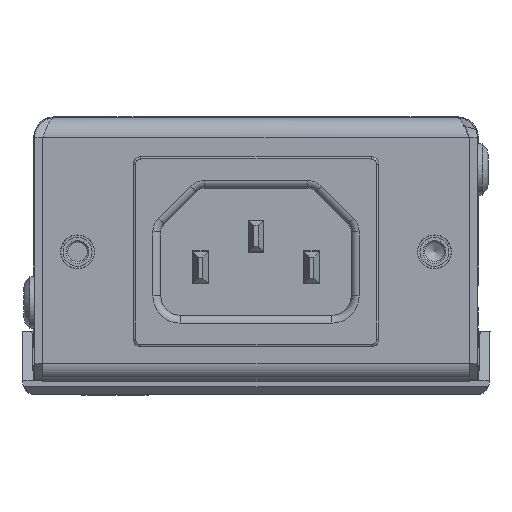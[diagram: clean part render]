
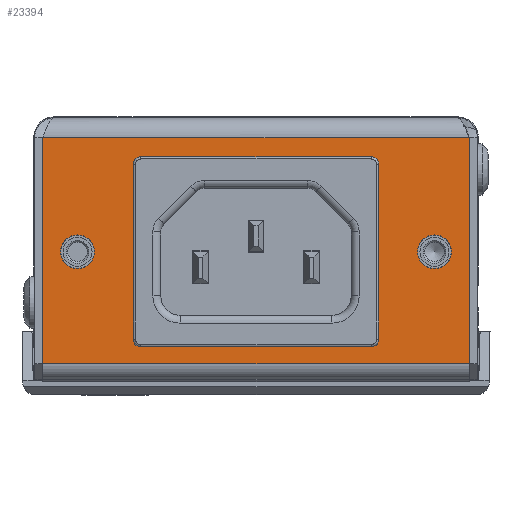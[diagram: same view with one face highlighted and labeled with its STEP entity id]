
A CAD part, left-side view. The second image highlights one B-rep face of the part: STEP entity #23394.
In plain terms, the highlighted planar face has unit normal (-1, 0, 0).
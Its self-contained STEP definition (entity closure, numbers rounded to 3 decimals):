
#375=B_SPLINE_CURVE_WITH_KNOTS('',3,(#41897,#41898,#41899,#41900),
 .UNSPECIFIED.,.F.,.F.,(4,4),(0.076,0.078),
 .UNSPECIFIED.);
#384=B_SPLINE_CURVE_WITH_KNOTS('',3,(#42049,#42050,#42051,#42052),
 .UNSPECIFIED.,.F.,.F.,(4,4),(-0.079,-0.076),
 .UNSPECIFIED.);
#476=FACE_BOUND('',#3398,.T.);
#477=FACE_BOUND('',#3399,.T.);
#478=FACE_BOUND('',#3400,.T.);
#901=PLANE('',#25470);
#2082=FACE_OUTER_BOUND('',#3397,.T.);
#3397=EDGE_LOOP('',(#18826,#18827,#18828,#18829,#18830,#18831));
#3398=EDGE_LOOP('',(#18832,#18833,#18834,#18835,#18836,#18837,#18838,#18839));
#3399=EDGE_LOOP('',(#18840,#18841));
#3400=EDGE_LOOP('',(#18842,#18843));
#4208=CIRCLE('',#23856,1.);
#4210=CIRCLE('',#23859,1.);
#4214=CIRCLE('',#23865,1.);
#4218=CIRCLE('',#23871,1.);
#4713=CIRCLE('',#25471,2.125);
#4714=CIRCLE('',#25472,2.125);
#4715=CIRCLE('',#25473,2.125);
#4716=CIRCLE('',#25474,2.125);
#4983=LINE('',#32799,#6977);
#4987=LINE('',#32808,#6981);
#4991=LINE('',#32817,#6985);
#4997=LINE('',#32830,#6991);
#6305=LINE('',#41955,#8299);
#6311=LINE('',#42044,#8305);
#6312=LINE('',#42046,#8306);
#6313=LINE('',#42048,#8307);
#6977=VECTOR('',#26292,10.);
#6981=VECTOR('',#26298,10.);
#6985=VECTOR('',#26304,10.);
#6991=VECTOR('',#26312,10.);
#8299=VECTOR('',#30840,10.);
#8305=VECTOR('',#30858,10.);
#8306=VECTOR('',#30859,10.);
#8307=VECTOR('',#30860,10.);
#8963=VERTEX_POINT('',#32797);
#8964=VERTEX_POINT('',#32798);
#8967=VERTEX_POINT('',#32806);
#8968=VERTEX_POINT('',#32807);
#8971=VERTEX_POINT('',#32815);
#8972=VERTEX_POINT('',#32816);
#8977=VERTEX_POINT('',#32827);
#8978=VERTEX_POINT('',#32829);
#10433=VERTEX_POINT('',#41889);
#10434=VERTEX_POINT('',#41896);
#10439=VERTEX_POINT('',#41954);
#10444=VERTEX_POINT('',#42043);
#10445=VERTEX_POINT('',#42045);
#10446=VERTEX_POINT('',#42047);
#10447=VERTEX_POINT('',#42053);
#10448=VERTEX_POINT('',#42054);
#10449=VERTEX_POINT('',#42057);
#10450=VERTEX_POINT('',#42058);
#11065=EDGE_CURVE('',#8963,#8964,#4983,.T.);
#11069=EDGE_CURVE('',#8967,#8968,#4987,.T.);
#11073=EDGE_CURVE('',#8971,#8972,#4991,.T.);
#11079=EDGE_CURVE('',#8978,#8977,#4997,.T.);
#11081=EDGE_CURVE('',#8964,#8967,#4208,.T.);
#11083=EDGE_CURVE('',#8977,#8963,#4210,.T.);
#11087=EDGE_CURVE('',#8968,#8971,#4214,.T.);
#11091=EDGE_CURVE('',#8972,#8978,#4218,.T.);
#13411=EDGE_CURVE('',#10434,#10433,#375,.T.);
#13418=EDGE_CURVE('',#10439,#10434,#6305,.T.);
#13429=EDGE_CURVE('',#10444,#10433,#6311,.T.);
#13430=EDGE_CURVE('',#10444,#10445,#6312,.T.);
#13431=EDGE_CURVE('',#10446,#10445,#6313,.T.);
#13432=EDGE_CURVE('',#10439,#10446,#384,.F.);
#13433=EDGE_CURVE('',#10447,#10448,#4713,.T.);
#13434=EDGE_CURVE('',#10448,#10447,#4714,.T.);
#13435=EDGE_CURVE('',#10449,#10450,#4715,.T.);
#13436=EDGE_CURVE('',#10450,#10449,#4716,.T.);
#18826=ORIENTED_EDGE('',*,*,#13418,.T.);
#18827=ORIENTED_EDGE('',*,*,#13411,.T.);
#18828=ORIENTED_EDGE('',*,*,#13429,.F.);
#18829=ORIENTED_EDGE('',*,*,#13430,.T.);
#18830=ORIENTED_EDGE('',*,*,#13431,.F.);
#18831=ORIENTED_EDGE('',*,*,#13432,.F.);
#18832=ORIENTED_EDGE('',*,*,#11079,.T.);
#18833=ORIENTED_EDGE('',*,*,#11083,.T.);
#18834=ORIENTED_EDGE('',*,*,#11065,.T.);
#18835=ORIENTED_EDGE('',*,*,#11081,.T.);
#18836=ORIENTED_EDGE('',*,*,#11069,.T.);
#18837=ORIENTED_EDGE('',*,*,#11087,.T.);
#18838=ORIENTED_EDGE('',*,*,#11073,.T.);
#18839=ORIENTED_EDGE('',*,*,#11091,.T.);
#18840=ORIENTED_EDGE('',*,*,#13433,.T.);
#18841=ORIENTED_EDGE('',*,*,#13434,.T.);
#18842=ORIENTED_EDGE('',*,*,#13435,.T.);
#18843=ORIENTED_EDGE('',*,*,#13436,.T.);
#23394=ADVANCED_FACE('',(#2082,#476,#477,#478),#901,.F.);
#23856=AXIS2_PLACEMENT_3D('',#32833,#26316,#26317);
#23859=AXIS2_PLACEMENT_3D('',#32836,#26322,#26323);
#23865=AXIS2_PLACEMENT_3D('',#32842,#26334,#26335);
#23871=AXIS2_PLACEMENT_3D('',#32848,#26346,#26347);
#25470=AXIS2_PLACEMENT_3D('',#42042,#30856,#30857);
#25471=AXIS2_PLACEMENT_3D('',#42055,#30861,#30862);
#25472=AXIS2_PLACEMENT_3D('',#42056,#30863,#30864);
#25473=AXIS2_PLACEMENT_3D('',#42059,#30865,#30866);
#25474=AXIS2_PLACEMENT_3D('',#42060,#30867,#30868);
#26292=DIRECTION('',(0.,1.,0.));
#26298=DIRECTION('',(0.,0.,1.));
#26304=DIRECTION('',(0.,-1.,0.));
#26312=DIRECTION('',(0.,0.,-1.));
#26316=DIRECTION('center_axis',(1.,0.,0.));
#26317=DIRECTION('ref_axis',(0.,0.,
1.));
#26322=DIRECTION('center_axis',(1.,0.,0.));
#26323=DIRECTION('ref_axis',(0.,0.,
1.));
#26334=DIRECTION('center_axis',(1.,0.,0.));
#26335=DIRECTION('ref_axis',(0.,0.,
1.));
#26346=DIRECTION('center_axis',(1.,0.,0.));
#26347=DIRECTION('ref_axis',(0.,0.,
1.));
#30840=DIRECTION('',(0.,1.,0.));
#30856=DIRECTION('center_axis',(1.,0.,0.));
#30857=DIRECTION('ref_axis',(0.,0.,
1.));
#30858=DIRECTION('',(0.,0.,1.));
#30859=DIRECTION('',(0.,-1.,0.));
#30860=DIRECTION('',(0.,0.,-1.));
#30861=DIRECTION('center_axis',(1.,0.,0.));
#30862=DIRECTION('ref_axis',(0.,-1.,0.));
#30863=DIRECTION('center_axis',(1.,0.,0.));
#30864=DIRECTION('ref_axis',(0.,-1.,0.));
#30865=DIRECTION('center_axis',(1.,0.,0.));
#30866=DIRECTION('ref_axis',(0.,-1.,0.));
#30867=DIRECTION('center_axis',(1.,0.,0.));
#30868=DIRECTION('ref_axis',(0.,-1.,0.));
#32797=CARTESIAN_POINT('',(-85.1,-14.5,6.));
#32798=CARTESIAN_POINT('',(-85.1,14.5,6.));
#32799=CARTESIAN_POINT('',(-85.1,15.722,6.));
#32806=CARTESIAN_POINT('',(-85.1,15.5,7.));
#32807=CARTESIAN_POINT('',(-85.1,15.5,29.));
#32808=CARTESIAN_POINT('',(-85.1,15.5,23.295));
#32815=CARTESIAN_POINT('',(-85.1,14.5,30.));
#32816=CARTESIAN_POINT('',(-85.1,-14.5,30.));
#32817=CARTESIAN_POINT('',(-85.1,0.642,30.));
#32827=CARTESIAN_POINT('',(-85.1,-15.5,7.));
#32829=CARTESIAN_POINT('',(-85.1,-15.5,29.));
#32830=CARTESIAN_POINT('',(-85.1,-15.5,11.855));
#32833=CARTESIAN_POINT('Origin',(-85.1,14.5,7.));
#32836=CARTESIAN_POINT('Origin',(-85.1,-14.5,7.));
#32842=CARTESIAN_POINT('Origin',(-85.1,14.5,29.));
#32848=CARTESIAN_POINT('Origin',(-85.1,-14.5,29.));
#41889=CARTESIAN_POINT('',(-85.1,26.9,32.381));
#41896=CARTESIAN_POINT('',(-85.1,26.893,32.4));
#41897=CARTESIAN_POINT('Ctrl Pts',(-85.1,26.893,32.4));
#41898=CARTESIAN_POINT('Ctrl Pts',(-85.1,26.895,32.394));
#41899=CARTESIAN_POINT('Ctrl Pts',(-85.1,26.898,32.388));
#41900=CARTESIAN_POINT('Ctrl Pts',(-85.1,26.9,32.381));
#41954=CARTESIAN_POINT('',(-85.1,-26.89,32.4));
#41955=CARTESIAN_POINT('',(-85.1,301.983,32.4));
#42042=CARTESIAN_POINT('Origin',(-85.1,16.364,17.15));
#42043=CARTESIAN_POINT('',(-85.1,26.9,3.9));
#42044=CARTESIAN_POINT('',(-85.1,26.9,32.4));
#42045=CARTESIAN_POINT('',(-85.1,-26.9,3.9));
#42046=CARTESIAN_POINT('',(-85.1,21.628,3.9));
#42047=CARTESIAN_POINT('',(-85.1,-26.9,32.374));
#42048=CARTESIAN_POINT('',(-85.1,-26.9,32.4));
#42049=CARTESIAN_POINT('Ctrl Pts',(-85.1,-26.9,
32.374));
#42050=CARTESIAN_POINT('Ctrl Pts',(-85.1,-26.897,
32.382));
#42051=CARTESIAN_POINT('Ctrl Pts',(-85.1,-26.893,
32.391));
#42052=CARTESIAN_POINT('Ctrl Pts',(-85.1,-26.89,32.4));
#42053=CARTESIAN_POINT('',(-85.1,20.375,18.));
#42054=CARTESIAN_POINT('',(-85.1,24.625,18.));
#42055=CARTESIAN_POINT('Origin',(-85.1,22.5,18.));
#42056=CARTESIAN_POINT('Origin',(-85.1,22.5,18.));
#42057=CARTESIAN_POINT('',(-85.1,-24.625,18.));
#42058=CARTESIAN_POINT('',(-85.1,-20.375,18.));
#42059=CARTESIAN_POINT('Origin',(-85.1,-22.5,18.));
#42060=CARTESIAN_POINT('Origin',(-85.1,-22.5,18.));
